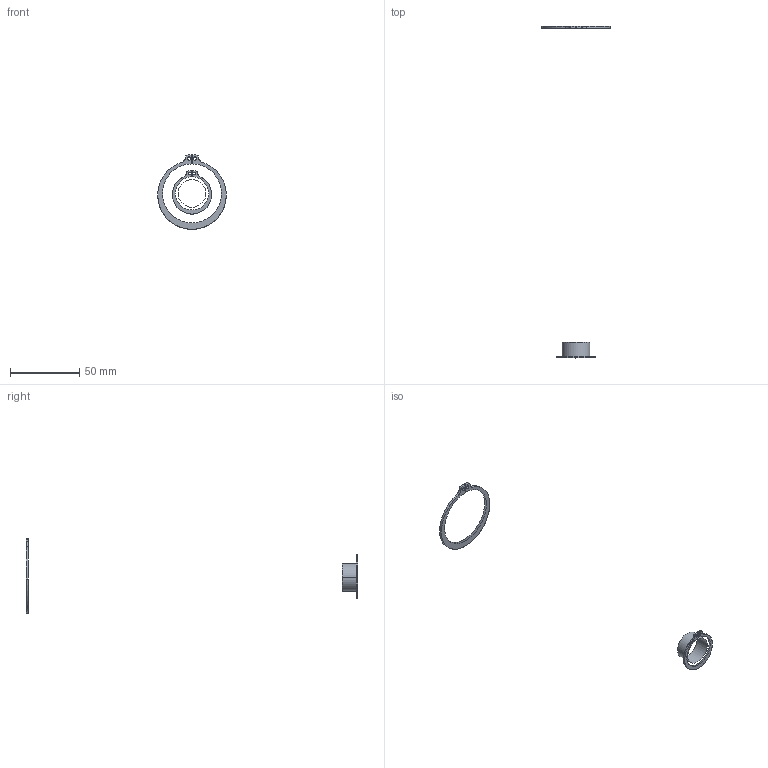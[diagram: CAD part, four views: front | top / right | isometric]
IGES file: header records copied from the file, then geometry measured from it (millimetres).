
Start section: SolidWorks IGES file using analytic representation for surfaces
Global section: file name: C:\Documents and Settings\ws-20\Desktop\TEM\UGEP5505-S-A-1 [Øf-1.36 ØC-12].IGS; native system: SolidWorks 2012; preprocessor: SolidWorks 2012; author: ws-20; date: 120427.080721; units: millimetre
Bounding box: 49.49 x 239.55 x 53.9 mm (x, y, z)
Surface area: 2597 mm2 (no closed solid volume)
Topology: 0 solids, 0 shells, 40 faces, 888 edges, 888 vertices
Faces by surface type: revolution 28, bspline 12
